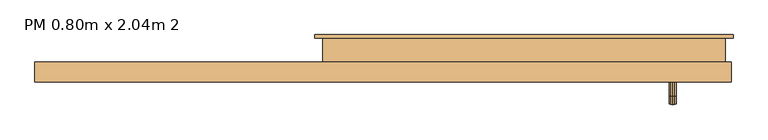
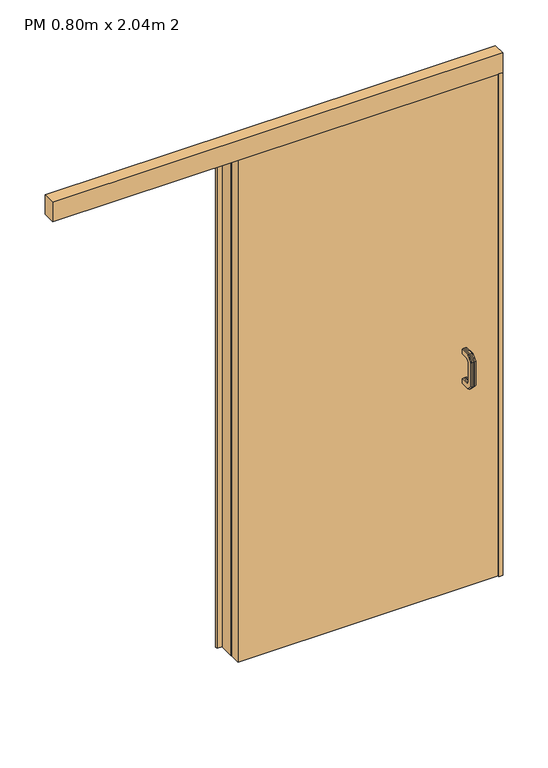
"""IFC4 building model written with IfcOpenShell, lengths in millimetres: door geometry, PM 0.80m x 2.04m 2."""

from ifc_helpers import new_model, si_unit, frame, origin, origin_with_axes, place, context, project, spatial, polyline, outline, extrude, faceted_brep, source, transform, mapped, element, save


def pm_0_80m_x_2_04m_2_668a118b(model_context):
    return source(origin(), model_context, "Body", "SolidModel", [
        faceted_brep([(0.0, 60.0, 0.0), (-20.0, 60.0, 0.0), (-20.0, 68.0, 0.0), (15.0, 68.0, 0.0), (15.0, 0.0, 0.0), (0.0, 0.0, 0.0), (0.0, 60.0, 2040.0), (1000.0, 60.0, 2040.0), (1000.0, 60.0, 0.0), (1020.0, 60.0, 0.0), (1020.0, 60.0, 2060.0), (-20.0, 60.0, 2060.0), (-20.0, 68.0, 2060.0), (1020.0, 68.0, 2060.0), (1020.0, 68.0, 0.0), (985.0, 68.0, 0.0), (985.0, 68.0, 2025.0), (15.0, 68.0, 2025.0), (15.0, 0.0, 2025.0), (985.0, 0.0, 2025.0), (985.0, 0.0, 0.0), (1000.0, 0.0, 0.0), (1000.0, 0.0, 2040.0), (0.0, 0.0, 2040.0)], [[[0, 1, 2, 3, 4, 5]], [[1, 0, 6, 7, 8, 9, 10, 11]], [[2, 1, 11, 12]], [[3, 2, 12, 13, 14, 15, 16, 17]], [[4, 3, 17, 18]], [[5, 4, 18, 19, 20, 21, 22, 23]], [[0, 5, 23, 6]], [[12, 11, 10, 13]], [[18, 17, 16, 19]], [[6, 23, 22, 7]], [[8, 21, 20, 15, 14, 9]], [[13, 10, 9, 14]], [[19, 16, 15, 20]], [[7, 22, 21, 8]]]),
        extrude(outline(polyline([(1015.0, -50.0), (1000.0, -50.0), (1000.0, 0.0), (1015.0, 0.0), (1015.0, -50.0)])), origin_with_axes(), (0.0, 0.0, 1.0), 2040.0),
        extrude(outline(polyline([(1000.0, -45.0), (0.0, -45.0), (0.0, -5.0), (1000.0, -5.0), (1000.0, -45.0)])), origin_with_axes(), (0.0, 0.0, 1.0), 2040.0),
        faceted_brep([(870.0, -5.0, 948.7440145), (874.6392206, -5.0, 949.3166024), (879.0, -5.0, 951.0), (879.0, -5.0, 969.0), (874.6392206, -5.0, 970.6833976), (870.0, -5.0, 971.2559855), (865.3607794, -5.0, 970.6833976), (861.0, -5.0, 969.0), (861.0, -5.0, 951.0), (865.3607794, -5.0, 949.3166024), (874.6392206, -5.0, 829.3166024), (879.0, -5.0, 831.0), (879.0, -5.0, 849.0), (874.6392206, -5.0, 850.6833976), (870.0, -5.0, 851.2559855), (865.3607794, -5.0, 850.6833976), (861.0, -5.0, 849.0), (861.0, -5.0, 831.0), (865.3607794, -5.0, 829.3166024), (870.0, -5.0, 828.7440145), (861.0, 26.2720779, 849.0), (861.0, 36.0, 858.7279221), (861.0, 36.0, 941.2720779), (861.0, 26.2720779, 951.0), (861.0, 33.7279221, 969.0), (861.0, 54.0, 948.7279221), (861.0, 54.0, 851.2720779), (861.0, 33.7279221, 831.0), (865.3607794, 34.4252082, 970.6833976), (870.0, 34.6623818, 971.2559855), (874.6392206, 34.4252082, 970.6833976), (879.0, 33.7279221, 969.0), (879.0, 26.2720779, 951.0), (879.0, 36.0, 941.2720779), (879.0, 36.0, 858.7279221), (879.0, 26.2720779, 849.0), (879.0, 33.7279221, 831.0), (879.0, 54.0, 851.2720779), (879.0, 54.0, 948.7279221), (874.6392206, 25.5747918, 949.3166024), (870.0, 25.3376182, 948.7440145), (865.3607794, 25.5747918, 949.3166024), (865.3607794, 55.6833976, 949.4252082), (870.0, 56.2559855, 949.6623818), (874.6392206, 55.6833976, 949.4252082), (874.6392206, 34.3166024, 940.5747918), (870.0, 33.7440145, 940.3376182), (865.3607794, 34.3166024, 940.5747918), (865.3607794, 55.6833976, 850.5747918), (870.0, 56.2559855, 850.3376182), (874.6392206, 55.6833976, 850.5747918), (874.6392206, 34.3166024, 859.4252082), (870.0, 33.7440145, 859.6623818), (865.3607794, 34.3166024, 859.4252082), (865.3607794, 34.4252082, 829.3166024), (870.0, 34.6623818, 828.7440145), (874.6392206, 34.4252082, 829.3166024), (874.6392206, 25.5747918, 850.6833976), (870.0, 25.3376182, 851.2559855), (865.3607794, 25.5747918, 850.6833976)], [[[0, 1, 2, 3, 4, 5, 6, 7, 8, 9]], [[10, 11, 12, 13, 14, 15, 16, 17, 18, 19]], [[16, 20, 21, 22, 23, 8, 7, 24, 25, 26, 27, 17]], [[6, 28, 24, 7]], [[5, 29, 28, 6]], [[5, 4, 30, 29]], [[3, 31, 30, 4]], [[2, 32, 33, 34, 35, 12, 11, 36, 37, 38, 31, 3]], [[2, 1, 39, 32]], [[40, 39, 1, 0]], [[8, 23, 41, 9]], [[40, 0, 9, 41]], [[24, 28, 42, 25]], [[29, 43, 42, 28]], [[30, 44, 43, 29]], [[30, 31, 38, 44]], [[32, 39, 45, 33]], [[46, 45, 39, 40]], [[41, 23, 22, 47]], [[47, 46, 40, 41]], [[42, 48, 26, 25]], [[43, 49, 48, 42]], [[44, 50, 49, 43]], [[44, 38, 37, 50]], [[45, 51, 34, 33]], [[51, 45, 46, 52]], [[22, 21, 53, 47]], [[52, 46, 47, 53]], [[26, 48, 54, 27]], [[49, 55, 54, 48]], [[50, 56, 55, 49]], [[50, 37, 36, 56]], [[34, 51, 57, 35]], [[58, 57, 51, 52]], [[53, 21, 20, 59]], [[59, 58, 52, 53]], [[27, 54, 18, 17]], [[19, 18, 54, 55]], [[36, 11, 10, 56]], [[19, 55, 56, 10]], [[57, 13, 12, 35]], [[13, 57, 58, 14]], [[59, 20, 16, 15]], [[15, 14, 58, 59]]]),
        faceted_brep([(874.6392206, -45.0, 970.6833976), (879.0, -45.0, 969.0), (879.0, -45.0, 951.0), (874.6392206, -45.0, 949.3166024), (870.0, -45.0, 948.7440145), (865.3607794, -45.0, 949.3166024), (861.0, -45.0, 951.0), (861.0, -45.0, 969.0), (865.3607794, -45.0, 970.6833976), (870.0, -45.0, 971.2559855), (874.6392206, -45.0, 850.6833976), (879.0, -45.0, 849.0), (879.0, -45.0, 831.0), (874.6392206, -45.0, 829.3166024), (870.0, -45.0, 828.7440145), (865.3607794, -45.0, 829.3166024), (861.0, -45.0, 831.0), (861.0, -45.0, 849.0), (865.3607794, -45.0, 850.6833976), (870.0, -45.0, 851.2559855), (874.6392206, -84.4252082, 970.6833976), (879.0, -83.7279221, 969.0), (870.0, -84.6623818, 971.2559855), (865.3607794, -84.4252082, 970.6833976), (861.0, -83.7279221, 969.0), (861.0, -76.2720779, 951.0), (861.0, -86.0, 941.2720779), (861.0, -86.0, 858.7279221), (861.0, -76.2720779, 849.0), (861.0, -83.7279221, 831.0), (861.0, -104.0, 851.2720779), (861.0, -104.0, 948.7279221), (865.3607794, -75.5747918, 949.3166024), (870.0, -75.3376182, 948.7440145), (879.0, -76.2720779, 951.0), (874.6392206, -75.5747918, 949.3166024), (879.0, -76.2720779, 849.0), (879.0, -86.0, 858.7279221), (879.0, -86.0, 941.2720779), (879.0, -104.0, 948.7279221), (879.0, -104.0, 851.2720779), (879.0, -83.7279221, 831.0), (874.6392206, -105.6833976, 949.4252082), (870.0, -106.2559855, 949.6623818), (865.3607794, -105.6833976, 949.4252082), (865.3607794, -84.3166024, 940.5747918), (870.0, -83.7440145, 940.3376182), (874.6392206, -84.3166024, 940.5747918), (874.6392206, -105.6833976, 850.5747918), (870.0, -106.2559855, 850.3376182), (865.3607794, -105.6833976, 850.5747918), (865.3607794, -84.3166024, 859.4252082), (870.0, -83.7440145, 859.6623818), (874.6392206, -84.3166024, 859.4252082), (874.6392206, -84.4252082, 829.3166024), (870.0, -84.6623818, 828.7440145), (865.3607794, -84.4252082, 829.3166024), (865.3607794, -75.5747918, 850.6833976), (870.0, -75.3376182, 851.2559855), (874.6392206, -75.5747918, 850.6833976)], [[[0, 1, 2, 3, 4, 5, 6, 7, 8, 9]], [[10, 11, 12, 13, 14, 15, 16, 17, 18, 19]], [[0, 20, 21, 1]], [[9, 22, 20, 0]], [[9, 8, 23, 22]], [[7, 24, 23, 8]], [[6, 25, 26, 27, 28, 17, 16, 29, 30, 31, 24, 7]], [[6, 5, 32, 25]], [[33, 32, 5, 4]], [[2, 34, 35, 3]], [[33, 4, 3, 35]], [[11, 36, 37, 38, 34, 2, 1, 21, 39, 40, 41, 12]], [[20, 42, 39, 21]], [[22, 43, 42, 20]], [[23, 44, 43, 22]], [[23, 24, 31, 44]], [[25, 32, 45, 26]], [[46, 45, 32, 33]], [[35, 34, 38, 47]], [[47, 46, 33, 35]], [[42, 48, 40, 39]], [[43, 49, 48, 42]], [[44, 50, 49, 43]], [[44, 31, 30, 50]], [[45, 51, 27, 26]], [[51, 45, 46, 52]], [[38, 37, 53, 47]], [[52, 46, 47, 53]], [[48, 54, 41, 40]], [[49, 55, 54, 48]], [[50, 56, 55, 49]], [[50, 30, 29, 56]], [[27, 51, 57, 28]], [[58, 57, 51, 52]], [[53, 37, 36, 59]], [[59, 58, 52, 53]], [[41, 54, 13, 12]], [[14, 13, 54, 55]], [[29, 16, 15, 56]], [[14, 55, 56, 15]], [[57, 18, 17, 28]], [[18, 57, 58, 19]], [[59, 36, 11, 10]], [[10, 19, 58, 59]]]),
        extrude(outline(polyline([(1015.0, -50.0), (-715.0, -50.0), (-715.0, 0.0), (1015.0, 0.0), (1015.0, -50.0)])), frame((0.0, 0.0, 2040.0), z_axis=(0.0, 0.0, 1.0), x_axis=(1.0, 0.0, 0.0)), (0.0, 0.0, 1.0), 80.0),
    ])


if __name__ == "__main__":
    model = new_model("IFC4")
    model_context = context("Model", 3, world=origin())
    ifc_project = project(units=[si_unit("LENGTHUNIT", "METRE", prefix="MILLI")], contexts=[model_context])
    site = spatial("IfcSite", under=ifc_project)
    building = spatial("IfcBuilding", under=site)
    placement = place(None, origin())
    pm_0_80m_x_2_04m_2_shape = pm_0_80m_x_2_04m_2_668a118b(model_context)
    element("IfcDoor", 1, ObjectType="PM 0.80m x 2.04m 2", at=placement, inside=building, context=model_context, shape_type="MappedRepresentation", body=[
        mapped(pm_0_80m_x_2_04m_2_shape, transform((0.0, 0.0, 0.0), x_axis=(1.0, 0.0, 0.0), y_axis=(0.0, 1.0, 0.0), z_axis=(0.0, 0.0, 1.0))),
    ])
    save(model, "model.ifc")
